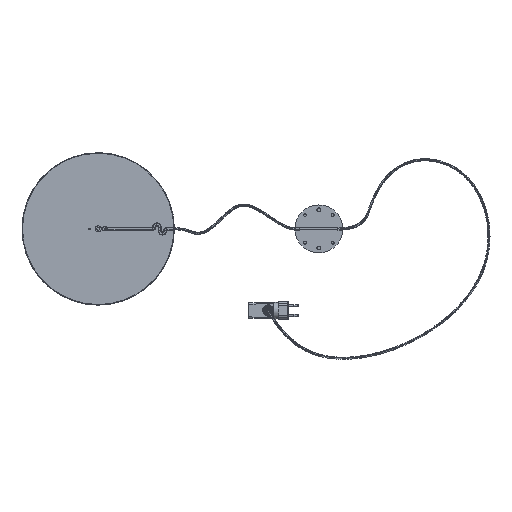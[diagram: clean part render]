
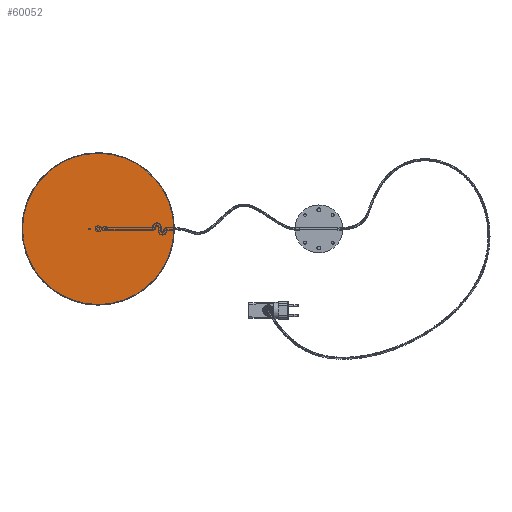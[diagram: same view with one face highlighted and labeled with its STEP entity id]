
A CAD part, front view. The second image highlights one B-rep face of the part: STEP entity #60052.
In plain terms, the highlighted planar face has unit normal (0, -1, 0).
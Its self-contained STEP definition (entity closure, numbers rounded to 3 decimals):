
#337 = CARTESIAN_POINT ( 'NONE',  ( 0., 0., 139. ) ) ;
#4649 = AXIS2_PLACEMENT_3D ( 'NONE', #64846, #6725, #48020 ) ;
#4878 = DIRECTION ( 'NONE',  ( 0., 1., 0. ) ) ;
#6323 = DIRECTION ( 'NONE',  ( 0., 0., 1. ) ) ;
#6725 = DIRECTION ( 'NONE',  ( 0., 1., 0. ) ) ;
#11399 = CARTESIAN_POINT ( 'NONE',  ( 0., 0., 0. ) ) ;
#13231 = EDGE_LOOP ( 'NONE', ( #63842, #47670 ) ) ;
#17238 = FACE_OUTER_BOUND ( 'NONE', #13231, .T. ) ;
#17672 = EDGE_CURVE ( 'NONE', #55990, #64563, #28185, .T. ) ;
#21469 = CARTESIAN_POINT ( 'NONE',  ( 0., 0., 0. ) ) ;
#21680 = EDGE_CURVE ( 'NONE', #64563, #55990, #25240, .T. ) ;
#25240 = CIRCLE ( 'NONE', #33901, 139. ) ;
#28185 = CIRCLE ( 'NONE', #35806, 139. ) ;
#33822 = PLANE ( 'NONE',  #4649 ) ;
#33901 = AXIS2_PLACEMENT_3D ( 'NONE', #11399, #52668, #6323 ) ;
#35806 = AXIS2_PLACEMENT_3D ( 'NONE', #21469, #4878, #41138 ) ;
#41138 = DIRECTION ( 'NONE',  ( 0., 0., 1. ) ) ;
#47670 = ORIENTED_EDGE ( 'NONE', *, *, #17672, .F. ) ;
#48020 = DIRECTION ( 'NONE',  ( 0., 0., 1. ) ) ;
#48842 = CARTESIAN_POINT ( 'NONE',  ( 0., 0., -139. ) ) ;
#52668 = DIRECTION ( 'NONE',  ( 0., 1., 0. ) ) ;
#55990 = VERTEX_POINT ( 'NONE', #337 ) ;
#60052 = ADVANCED_FACE ( 'NONE', ( #17238 ), #33822, .F. ) ;
#63842 = ORIENTED_EDGE ( 'NONE', *, *, #21680, .F. ) ;
#64563 = VERTEX_POINT ( 'NONE', #48842 ) ;
#64846 = CARTESIAN_POINT ( 'NONE',  ( 0., 0., 0. ) ) ;
